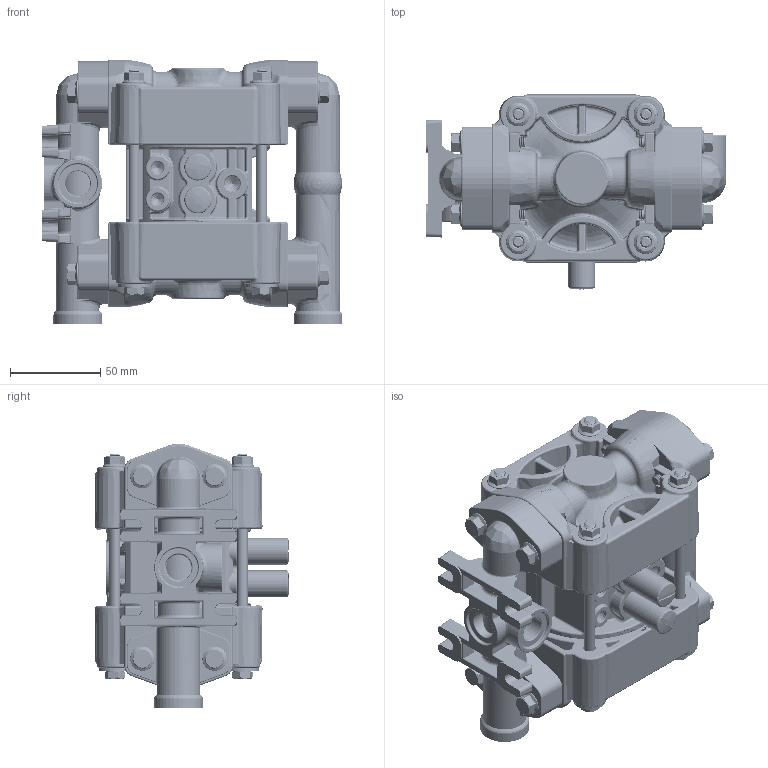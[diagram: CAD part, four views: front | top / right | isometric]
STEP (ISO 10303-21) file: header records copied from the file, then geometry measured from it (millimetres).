
FILE_DESCRIPTION (( 'STEP AP203' ), '1' );
FILE_NAME ('P20 Assieme plastica.STEP', '2024-06-27T10:10:05', ( '' ), ( '' ), 'SwSTEP 2.0', 'SolidWorks 2023', '' );
FILE_SCHEMA (( 'CONFIG_CONTROL_DESIGN' ));
Products named in the file (1): P20 Assieme plastica
Bounding box: 166.5 x 108.02 x 146.59 mm (x, y, z)
Volume: 695807.1 mm3; surface area: 256998.8 mm2
Topology: 38 solids, 39 shells, 7893 faces, 17899 edges, 9948 vertices
Faces by surface type: cylinder 1818, torus 1576, bspline 1492, cone 1393, plane 1320, sphere 294
Entity records: 320641 total; most frequent: CARTESIAN_POINT 156938, ORIENTED_EDGE 35242, DIRECTION 33551, EDGE_CURVE 17621, AXIS2_PLACEMENT_3D 13896, VERTEX_POINT 9921, EDGE_LOOP 8122, ADVANCED_FACE 7893
